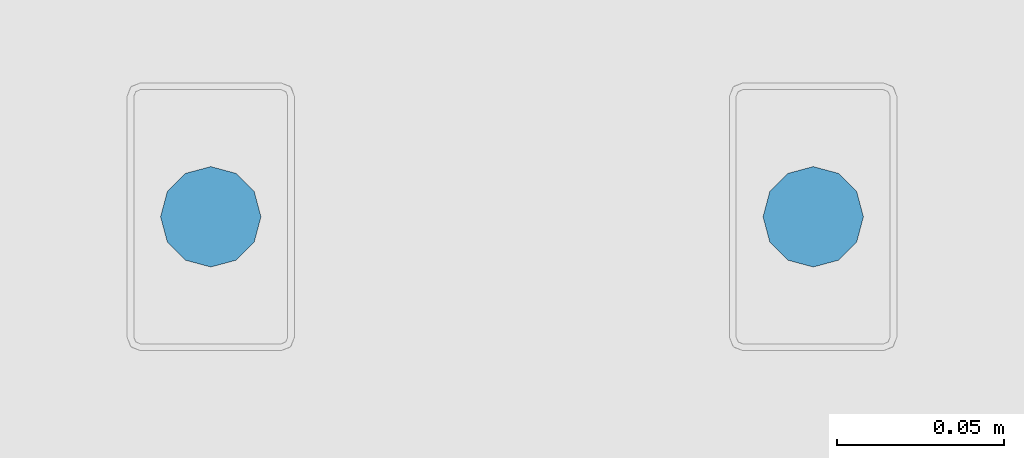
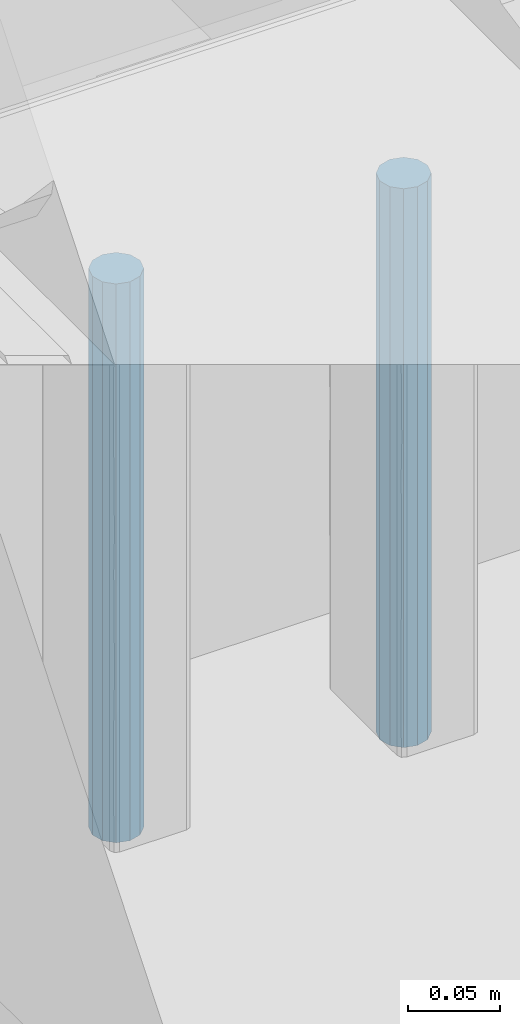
# One storey, part 209 of 230: 2 beams.
"""IFC4X3_ADD2 building model written with IfcOpenShell, lengths in millimetres."""

from ifc_helpers import new_model, si_unit, direction, origin_with_axes, place, context, subcontext, project, spatial, polygons, element, save


model = new_model("IFC4X3_ADD2")

# Units and contexts
model_context = context("Model", 3, precision=1e-05, world=origin_with_axes(), true_north=direction((0.0, 1.0)))
body_context = subcontext(model_context, "Body", "Model", "MODEL_VIEW")
ifc_project = project(units=[si_unit("LENGTHUNIT", "METRE", prefix="MILLI"), si_unit("AREAUNIT", "SQUARE_METRE"), si_unit("VOLUMEUNIT", "CUBIC_METRE"), si_unit("PLANEANGLEUNIT", "RADIAN"), si_unit("TIMEUNIT", "SECOND"), si_unit("MASSUNIT", "GRAM")], contexts=[model_context])

# Site, building, storey
site_placement = place(None, origin_with_axes())
site = spatial("IfcSite", under=ifc_project, at=site_placement, Name="Site", CompositionType="ELEMENT")
building_placement = place(site_placement, origin_with_axes())
building = spatial("IfcBuilding", under=site, at=building_placement, Name="IFC Building Story")
storey_placement = place(building_placement, origin_with_axes())
storey = spatial("IfcBuildingStorey", under=building, at=storey_placement, Name="ETAGE 00 (0)", Elevation=0.0)

# Beams
beam_1_placement = place(storey_placement, origin_with_axes())
element("IfcBeam", 1, at=beam_1_placement, inside=storey, Name="SD11", ObjectType="D30", context=body_context, shape_type="Tessellation", body=[
    polygons([(40041.1887207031, 26034.99896240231, 3960.0), (40041.1887207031, 26034.99896240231, 3590.0), (40043.19833964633, 26027.49896240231, 3590.0), (40043.19833964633, 26027.49896240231, 3960.0), (40048.6887207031, 26022.00858134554, 3590.0), (40048.6887207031, 26022.00858134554, 3960.0), (40056.1887207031, 26019.9989624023, 3590.0), (40056.1887207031, 26019.9989624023, 3960.0), (40063.6887207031, 26022.00858134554, 3590.0), (40063.6887207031, 26022.00858134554, 3960.0), (40069.17910175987, 26027.49896240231, 3590.0), (40069.17910175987, 26027.49896240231, 3960.0), (40071.1887207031, 26034.99896240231, 3590.0), (40071.1887207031, 26034.99896240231, 3960.0), (40069.17910175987, 26042.49896240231, 3590.0), (40069.17910175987, 26042.49896240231, 3960.0), (40063.6887207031, 26047.98934345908, 3590.0), (40063.6887207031, 26047.98934345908, 3960.0), (40056.1887207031, 26049.9989624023, 3590.0), (40056.1887207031, 26049.9989624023, 3960.0), (40048.6887207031, 26047.98934345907, 3590.0), (40048.6887207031, 26047.98934345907, 3960.0), (40043.19833964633, 26042.49896240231, 3590.0), (40043.19833964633, 26042.49896240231, 3960.0)], [[[1, 2, 3, 4]], [[4, 3, 5, 6]], [[6, 5, 7, 8]], [[8, 7, 9, 10]], [[10, 9, 11, 12]], [[12, 11, 13, 14]], [[14, 13, 15, 16]], [[16, 15, 17, 18]], [[18, 17, 19, 20]], [[20, 19, 21, 22]], [[22, 21, 23, 24]], [[24, 23, 2, 1]], [[4, 6, 8]], [[4, 8, 10]], [[4, 10, 12]], [[4, 12, 14]], [[4, 14, 16]], [[4, 16, 18]], [[4, 18, 20]], [[4, 20, 22]], [[4, 22, 24]], [[4, 24, 1]], [[2, 23, 21]], [[2, 21, 19]], [[2, 19, 17]], [[2, 17, 15]], [[2, 15, 13]], [[2, 13, 11]], [[2, 11, 9]], [[2, 9, 7]], [[2, 7, 5]], [[2, 5, 3]]]),
])
beam_2_placement = place(storey_placement, origin_with_axes())
element("IfcBeam", 2, at=beam_2_placement, inside=storey, Name="SD11", ObjectType="D30", context=body_context, shape_type="Tessellation", body=[
    polygons([(39861.1608992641, 26034.99896240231, 3960.0), (39861.1608992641, 26034.99896240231, 3590.0), (39863.17051820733, 26027.49896240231, 3590.0), (39863.17051820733, 26027.49896240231, 3960.0), (39868.6608992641, 26022.00858134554, 3590.0), (39868.6608992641, 26022.00858134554, 3960.0), (39876.1608992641, 26019.9989624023, 3590.0), (39876.1608992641, 26019.9989624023, 3960.0), (39883.6608992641, 26022.00858134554, 3590.0), (39883.6608992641, 26022.00858134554, 3960.0), (39889.15128032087, 26027.49896240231, 3590.0), (39889.15128032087, 26027.49896240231, 3960.0), (39891.1608992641, 26034.99896240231, 3590.0), (39891.1608992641, 26034.99896240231, 3960.0), (39889.15128032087, 26042.49896240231, 3590.0), (39889.15128032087, 26042.49896240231, 3960.0), (39883.6608992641, 26047.98934345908, 3590.0), (39883.6608992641, 26047.98934345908, 3960.0), (39876.1608992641, 26049.9989624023, 3590.0), (39876.1608992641, 26049.9989624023, 3960.0), (39868.6608992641, 26047.98934345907, 3590.0), (39868.6608992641, 26047.98934345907, 3960.0), (39863.17051820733, 26042.49896240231, 3590.0), (39863.17051820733, 26042.49896240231, 3960.0)], [[[1, 2, 3, 4]], [[4, 3, 5, 6]], [[6, 5, 7, 8]], [[8, 7, 9, 10]], [[10, 9, 11, 12]], [[12, 11, 13, 14]], [[14, 13, 15, 16]], [[16, 15, 17, 18]], [[18, 17, 19, 20]], [[20, 19, 21, 22]], [[22, 21, 23, 24]], [[24, 23, 2, 1]], [[4, 6, 8]], [[4, 8, 10]], [[4, 10, 12]], [[4, 12, 14]], [[4, 14, 16]], [[4, 16, 18]], [[4, 18, 20]], [[4, 20, 22]], [[4, 22, 24]], [[4, 24, 1]], [[2, 23, 21]], [[2, 21, 19]], [[2, 19, 17]], [[2, 17, 15]], [[2, 15, 13]], [[2, 13, 11]], [[2, 11, 9]], [[2, 9, 7]], [[2, 7, 5]], [[2, 5, 3]]]),
])

save(model, "model.ifc")
